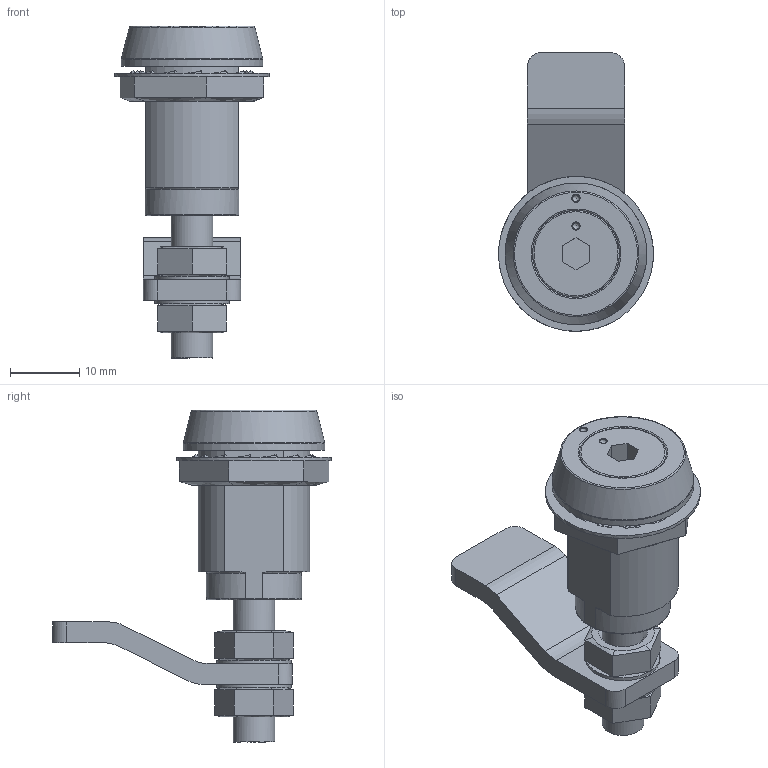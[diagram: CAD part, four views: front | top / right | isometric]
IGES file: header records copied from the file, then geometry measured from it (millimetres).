
Global section: file name: DR_KC-61; native system: Autodesk Inventor 2015; preprocessor: unknown; author: Administrator; date: 20170803.084246; units: millimetre
Bounding box: 22.3 x 40.15 x 47.8 mm (x, y, z)
Volume: 8453.8 mm3; surface area: 6218.7 mm2
Topology: 9 solids, 9 shells, 799 faces, 2085 edges, 1270 vertices
Faces by surface type: bspline 799
